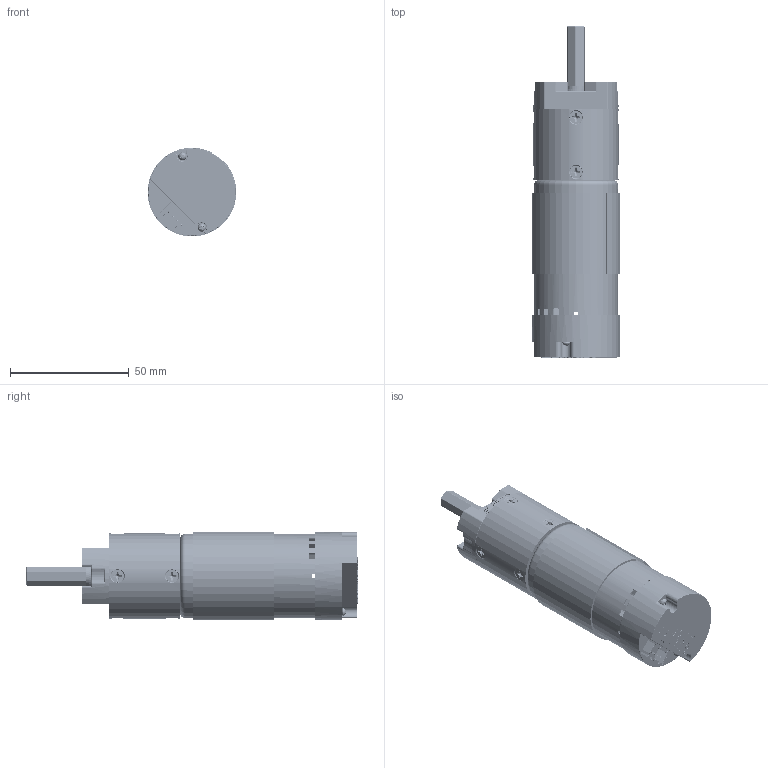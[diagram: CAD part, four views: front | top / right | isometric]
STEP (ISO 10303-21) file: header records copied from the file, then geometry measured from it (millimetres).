
FILE_DESCRIPTION (( 'STEP AP203' ), '1' );
FILE_NAME ('5203-2402-0014 assembly simple.STEP', '2021-01-06T21:15:43', ( '' ), ( '' ), 'SwSTEP 2.0', 'SolidWorks 2016', '' );
FILE_SCHEMA (( 'CONFIG_CONTROL_DESIGN' ));
Length unit declared in the file: millimetre
Products named in the file (17): 5000-0002-0117 motor shaft; 5000-0001-0001 encoder pin housing; 5000-0001-0001 encoder cap screw_90190A075; 5103 Gearbox Base Mounting Screw M3 x 5mm length SHCS)_91290A110; 5103-2402-0014 Simple; 5103 Gearbox Snap Ring; 5203-2402-0014 assembly simple; 5000-0001-0001 motor shield; 5103 Gearbox Base; 5000-0002-0001 body; 5103 Gearbox Shaft (23.5mm Length, Simple); 5103 Gearbox Face; 5103 Gearbox Barrel Screw (M3 x 8mm length Flat Head)_92010A118; 5103 Gearbox Barrel (2 stage, simple)_Gear Blank; 5103 Gearbox Bearing; 5000-0001-0001 encoder cap; 5000-0001-0001 encoder pins_MalePinHeader_1X2
Assembly tree (29 placements, depth 3):
  5203-2402-0014 assembly simple
    5000-0002-0001 body
    5000-0001-0001 encoder cap
    5000-0001-0001 encoder cap screw_90190A075  x2
    5000-0001-0001 encoder pin housing
    5000-0001-0001 encoder pins_MalePinHeader_1X2  x2
    5000-0001-0001 motor shield
    5000-0002-0117 motor shaft
    5103-2402-0014 Simple
      5103 Gearbox Base
      5103 Gearbox Barrel (2 stage, simple)_Gear Blank
      5103 Gearbox Barrel Screw (M3 x 8mm length Flat Head)_92010A118  x8
      5103 Gearbox Face
      5103 Gearbox Bearing  x2
      5103 Gearbox Shaft (23.5mm Length, Simple)
      5103 Gearbox Snap Ring
    5103 Gearbox Base Mounting Screw M3 x 5mm length SHCS)_91290A110  x4
Bounding box: 37.46 x 140.05 x 37.46 mm (x, y, z)
Volume: 59771.3 mm3; surface area: 49745.3 mm2
Topology: 66 solids, 66 shells, 4682 faces, 12165 edges, 7692 vertices
Faces by surface type: cylinder 2231, plane 918, bspline 681, cone 435, torus 251, sphere 166
Entity records: 149689 total; most frequent: CARTESIAN_POINT 83333, ORIENTED_EDGE 15760, DIRECTION 10977, EDGE_CURVE 7880, VERTEX_POINT 5118, AXIS2_PLACEMENT_3D 3856, LINE 3265, VECTOR 3265
